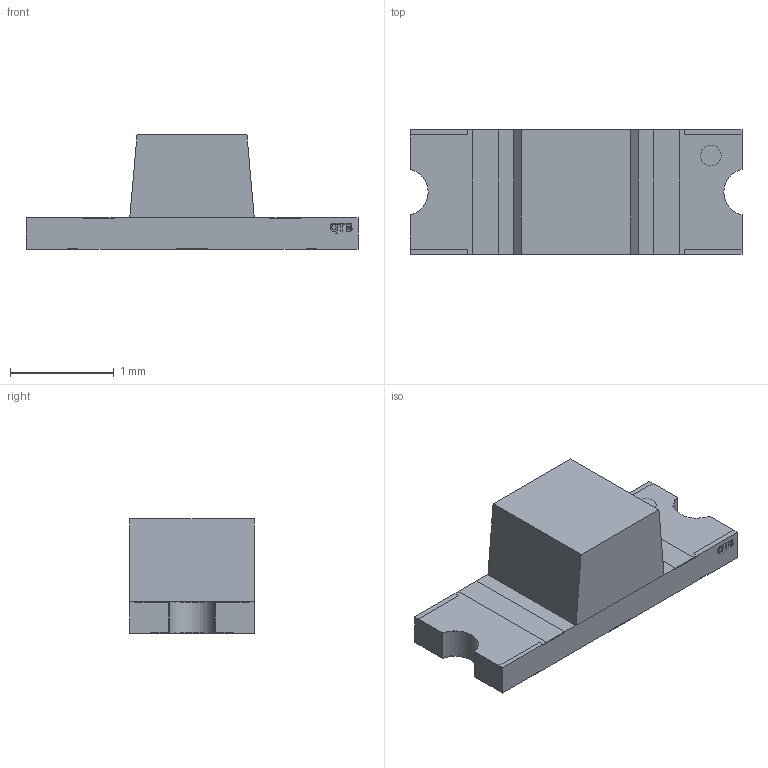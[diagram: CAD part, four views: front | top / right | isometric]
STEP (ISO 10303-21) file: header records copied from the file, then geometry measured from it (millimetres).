
FILE_DESCRIPTION(/* description */ (''),/* implementation_level */ '2;1');
FILE_NAME(/* name */ '5fab0f5ba422af0e7fe97079',/* time_stamp */ '2020-11-10T22:08:27+00:00',/* author */ (''),/* organization */ (''),/* preprocessor_version */ 'ST-DEVELOPER v16.7',/* originating_system */ $,/* authorisation */ $);
FILE_SCHEMA (('AUTOMOTIVE_DESIGN {1 0 10303 214 3 1 1}'));
Length unit declared in the file: metre
Products named in the file (8): QBLP655(R); Top Polarity Mark 1; Substrate; Bottom Polarity Mark; Pad 2; Pad 1; Resin; Top Polarity Mark 2
Assembly tree (7 placements, depth 2):
  QBLP655(R)
    Top Polarity Mark 1
    Substrate
    Bottom Polarity Mark
    Pad 2
    Pad 1
    Resin
    Top Polarity Mark 2
Bounding box: 3.2 x 1.2 x 1.1 mm (x, y, z)
Volume: 2.2 mm3; surface area: 24.1 mm2
Topology: 7 solids, 7 shells, 198 faces, 531 edges, 354 vertices
Faces by surface type: plane 153, bspline 29, cylinder 16
Full cylindrical faces by diameter (mm): 0.2 x2
Entity records: 6405 total; most frequent: CARTESIAN_POINT 1408, ORIENTED_EDGE 1058, DIRECTION 857, EDGE_CURVE 529, LINE 439, VECTOR 439, VERTEX_POINT 354, EDGE_LOOP 209
